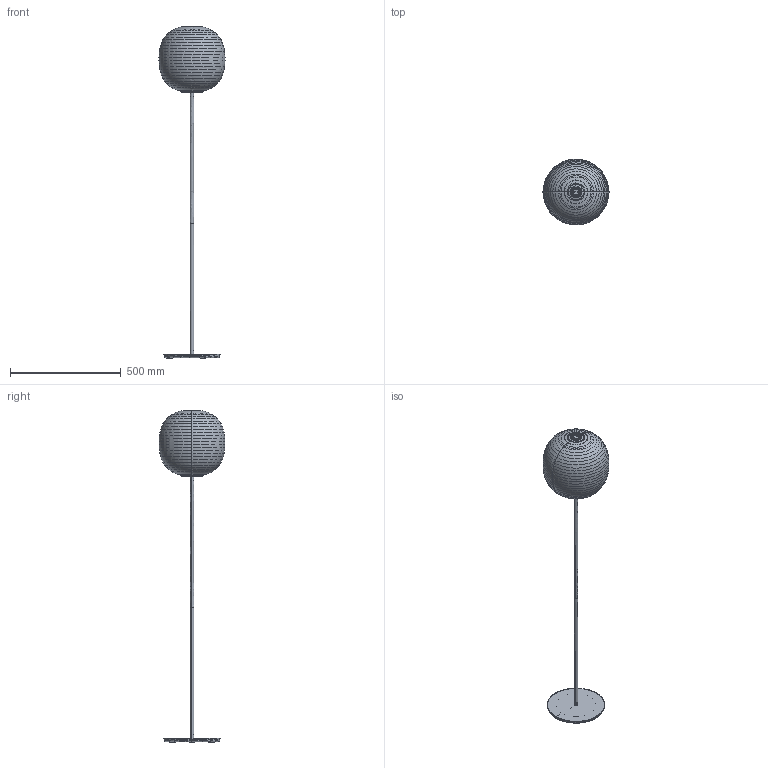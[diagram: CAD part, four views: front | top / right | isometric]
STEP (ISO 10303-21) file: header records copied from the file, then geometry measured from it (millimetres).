
FILE_DESCRIPTION(/* description */ (''),/* implementation_level */ '2;1');
FILE_NAME(/* name */ 'Lantern Floor lamp, Medium',/* time_stamp */ '2020-08-28T23:16:13+02:00',/* author */ (''),/* organization */ (''),/* preprocessor_version */ 'ST-DEVELOPER v15',/* originating_system */ '',/* authorisation */ '');
FILE_SCHEMA (('AUTOMOTIVE_DESIGN'));
Length unit declared in the file: millimetre
Products named in the file (2): Document; Block 01
Assembly tree (1 placements, depth 2):
  Document
    Block 01
Bounding box: 297.93 x 297.78 x 1498.41 mm (x, y, z)
Volume: 1274827 mm3; surface area: 867825.6 mm2
Topology: 40 solids, 41 shells, 805 faces, 1891 edges, 1059 vertices
Faces by surface type: bspline 751, plane 54
Entity records: 44242 total; most frequent: CARTESIAN_POINT 34039, ORIENTED_EDGE 3640, EDGE_CURVE 1855, VERTEX_POINT 1051, EDGE_LOOP 846, ADVANCED_FACE 799, FACE_OUTER_BOUND 799, B_SPLINE_CURVE_WITH_KNOTS 765
